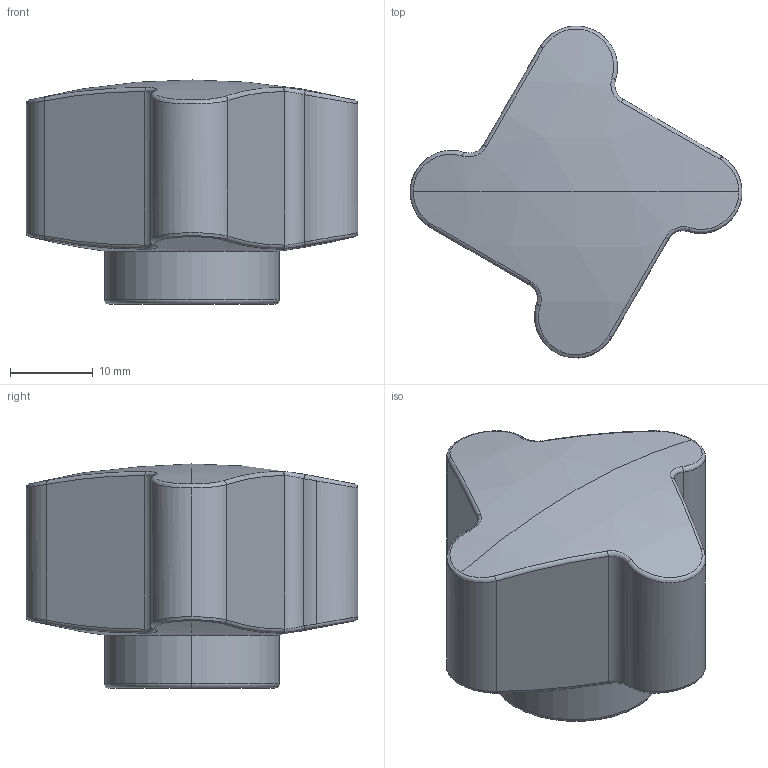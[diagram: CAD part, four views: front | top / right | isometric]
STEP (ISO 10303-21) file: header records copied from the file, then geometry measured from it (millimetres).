
FILE_DESCRIPTION (( 'STEP AP214' ), '1' );
FILE_NAME ('1120 40 306.STEP', '2010-11-26T15:31:07', ( 'Marc' ), ( '' ), 'SwSTEP 2.0', 'SolidWorks 2010', '' );
FILE_SCHEMA (( 'AUTOMOTIVE_DESIGN' ));
Length unit declared in the file: millimetre
Products named in the file (1): 1120 40 306
Bounding box: 39.99 x 39.99 x 27 mm (x, y, z)
Volume: 17171.8 mm3; surface area: 5860.3 mm2
Topology: 2 solids, 2 shells, 61 faces, 143 edges, 82 vertices
Faces by surface type: cylinder 19, bspline 16, torus 10, cone 6, plane 6, sphere 4
Entity records: 5855 total; most frequent: CARTESIAN_POINT 4445, ORIENTED_EDGE 274, DIRECTION 245, EDGE_CURVE 137, AXIS2_PLACEMENT_3D 108, VERTEX_POINT 82, EDGE_LOOP 63, CIRCLE 62
